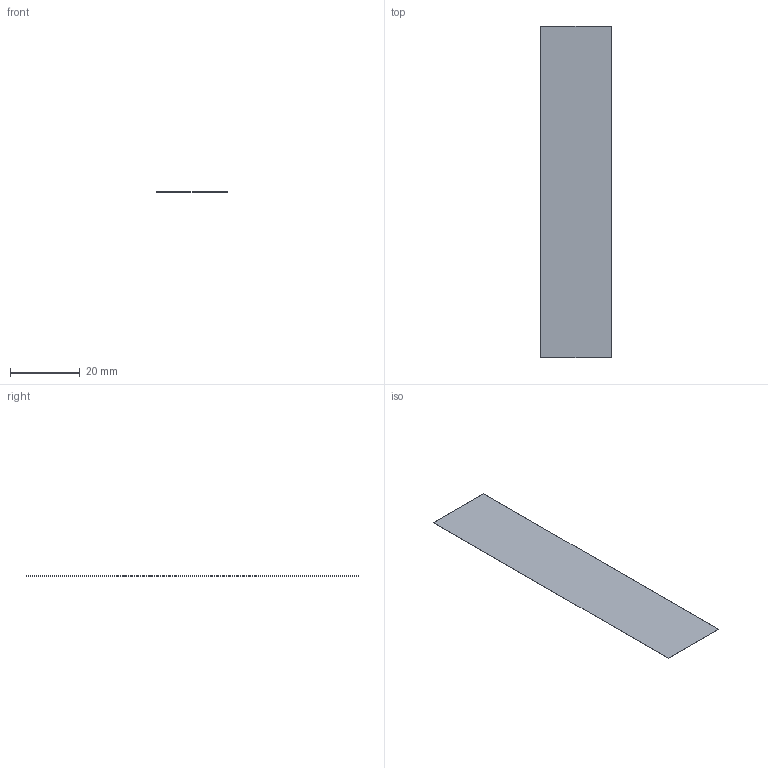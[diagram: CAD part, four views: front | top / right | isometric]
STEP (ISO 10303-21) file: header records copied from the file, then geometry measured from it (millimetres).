
FILE_DESCRIPTION(('Open CASCADE Model'),'2;1');
FILE_NAME('R36_STOCK_ANTENNA_CARRIER_ADHESIVE_0p05', '2026-09-15T13:10:23',('Author'),('Open CASCADE'), 'Open CASCADE STEP processor 7.9','build123d','Unknown');
FILE_SCHEMA(('AUTOMOTIVE_DESIGN { 1 0 10303 214 1 1 1 1 }'));
Length unit declared in the file: millimetre
Products named in the file (1): R36_STOCK_ANTENNA_CARRIER_ADHESIVE_0p05
Bounding box: 20.4 x 95.4 x 0.05 mm (x, y, z)
Volume: 97.3 mm3; surface area: 3903.9 mm2
Topology: 1 solids, 1 shells, 6 faces, 12 edges, 8 vertices
Faces by surface type: plane 6
Entity records: 322 total; most frequent: CARTESIAN_POINT 51, DIRECTION 50, LINE 36, VECTOR 36, ORIENTED_EDGE 24, PCURVE 24, DEFINITIONAL_REPRESENTATION 24, EDGE_CURVE 12
